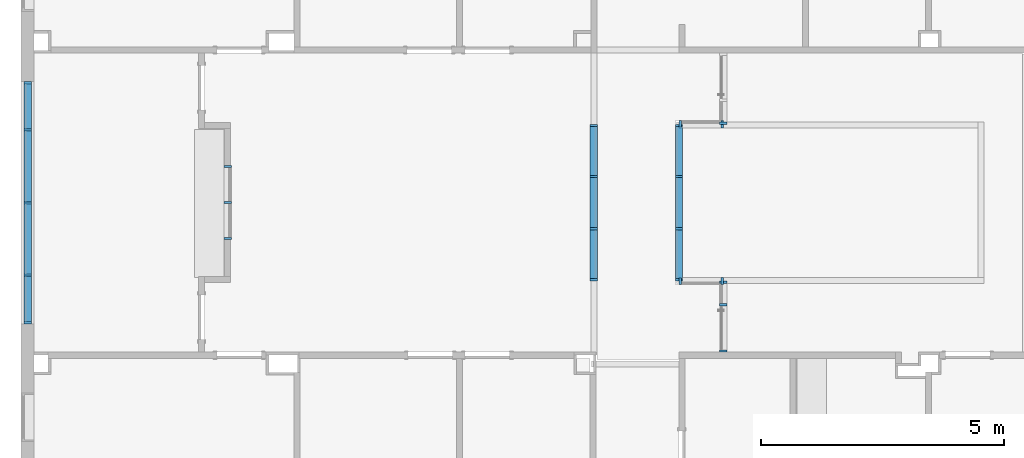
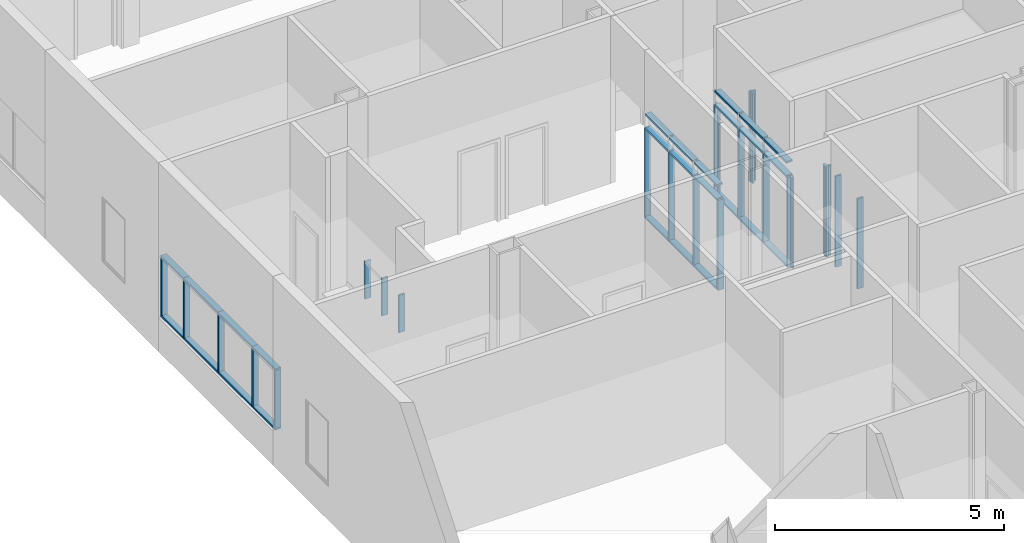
# One storey, part 6 of 87: 50 members, 8 elements without a shape of their own.
"""IFC2X3 building model written with IfcOpenShell, lengths in metres."""

from ifc_helpers import new_model, entity, si_unit, converted_unit, frame, origin, origin_2d_with_axis, place, context, project, spatial, rectangle, extrude, source, transform, mapped, material, type_object, type_shapes, element, aggregate, save


model = new_model("IFC2X3")

# Units and contexts
model_context = context("Model", 3, precision=1e-09, world=origin())
plan_context = context("Plan", 3, precision=1e-09, world=origin())
ifc_project = project(units=[si_unit("LENGTHUNIT", "METRE"), si_unit("AREAUNIT", "SQUARE_METRE"), si_unit("VOLUMEUNIT", "CUBIC_METRE"), converted_unit("PLANEANGLEUNIT", "DEGREE", entity("IfcRatioMeasure", 0.01745329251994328), si_unit("PLANEANGLEUNIT", "RADIAN"), dimensions=[0, 0, 0, 0, 0, 0, 0]), si_unit("TIMEUNIT", "SECOND")], contexts=[model_context, plan_context])

# Site, building, storey
site_placement = place(None, origin())
site = spatial("IfcSite", under=ifc_project, at=site_placement, Name="Default", CompositionType="ELEMENT")
building_placement = place(site_placement, origin())
building = spatial("IfcBuilding", under=site, at=building_placement, CompositionType="ELEMENT")
storey_placement = place(building_placement, origin())
storey = spatial("IfcBuildingStorey", under=building, at=storey_placement, Name="First Floor", CompositionType="ELEMENT", Elevation=-3.531500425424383e-13)

# Curtain wall, members
curtain_wall_1_placement = place(storey_placement, origin())
curtain_wall_1 = element("IfcCurtainWall", 1, at=curtain_wall_1_placement, inside=storey, Name="Curtain Wall:Storefront", ObjectType="Curtain Wall:Storefront")
ifc_material = material(Name="Metal - Aluminium")
member_type_1 = type_object("IfcMemberType", Name="50 x 150mm", PredefinedType="MULLION")
shared_shape_1 = source(origin(), model_context, "Body", "SweptSolid", [
    extrude(rectangle(XDim=0.05, YDim=0.15, at=origin_2d_with_axis()), frame((-0.025, 0.0, -1.0), z_axis=(0.0, 0.0, 1.0), x_axis=(-1.0, 0.0, 0.0)), (0.0, 0.0, 1.0), 1.0),
])
type_shapes(member_type_1, [shared_shape_1])
member_1_placement = place(storey_placement, frame((-52.14650000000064, 34.19495592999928, 2.54), z_axis=(0.0, 1.0, 0.0), x_axis=(0.0, 0.0, 1.0)))
member_1 = element("IfcMember", 2, at=member_1_placement, type_object=member_type_1, material=ifc_material, Name="Rectangular Mullion:50 x 150mm:50 x 150mm", ObjectType="50 x 150mm", context=model_context, shape_type="MappedRepresentation", body=[
    mapped(shared_shape_1, transform((0.0, 0.0, 0.0), scale=1.0)),
])
member_type_2 = type_object("IfcMemberType", Name="50 x 150mm", PredefinedType="MULLION")
shared_shape_2 = source(origin(), model_context, "Body", "SweptSolid", [
    extrude(rectangle(XDim=0.05, YDim=0.15, at=origin_2d_with_axis()), frame((-0.025, 0.0, -1.0), z_axis=(0.0, 0.0, 1.0), x_axis=(-1.0, 0.0, 0.0)), (0.0, 0.0, 1.0), 1.0),
])
type_shapes(member_type_2, [shared_shape_2])
member_2_placement = place(storey_placement, frame((-52.14650000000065, 30.19495592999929, 2.54), z_axis=(0.0, 1.0, 0.0), x_axis=(0.0, 0.0, 1.0)))
member_2 = element("IfcMember", 3, at=member_2_placement, type_object=member_type_2, material=ifc_material, Name="Rectangular Mullion:50 x 150mm:50 x 150mm", ObjectType="50 x 150mm", context=model_context, shape_type="MappedRepresentation", body=[
    mapped(shared_shape_2, transform((0.0, 0.0, 0.0), scale=1.0)),
])
member_type_3 = type_object("IfcMemberType", Name="50 x 150mm", PredefinedType="MULLION")
shared_shape_3 = source(origin(), model_context, "Body", "SweptSolid", [
    extrude(rectangle(XDim=0.05, YDim=0.15, at=origin_2d_with_axis()), frame((-0.025, 0.0, -1.0), z_axis=(0.0, 0.0, 1.0), x_axis=(-1.0, 0.0, 0.0)), (0.0, 0.0, 1.0), 1.0),
])
type_shapes(member_type_3, [shared_shape_3])
member_3_placement = place(storey_placement, frame((-52.14650000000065, 29.19495592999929, 0.905), z_axis=(0.0, -1.0, 0.0), x_axis=(0.0, 0.0, -1.0)))
member_3 = element("IfcMember", 4, at=member_3_placement, type_object=member_type_3, material=ifc_material, Name="Rectangular Mullion:50 x 150mm:50 x 150mm", ObjectType="50 x 150mm", context=model_context, shape_type="MappedRepresentation", body=[
    mapped(shared_shape_3, transform((0.0, 0.0, 0.0), scale=1.0)),
])
member_type_4 = type_object("IfcMemberType", Name="50 x 150mm", PredefinedType="MULLION")
shared_shape_4 = source(origin(), model_context, "Body", "SweptSolid", [
    extrude(rectangle(XDim=0.05, YDim=0.15, at=origin_2d_with_axis()), frame((-0.025, 0.0, -1.535), z_axis=(0.0, 0.0, 1.0), x_axis=(-1.0, 0.0, 0.0)), (0.0, 0.0, 1.0), 1.535),
])
type_shapes(member_type_4, [shared_shape_4])
member_4_placement = place(storey_placement, frame((-52.14650000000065, 29.19495592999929, 2.49), z_axis=(0.0, 0.0, 1.0), x_axis=(0.0, -1.0, 0.0)))
member_4 = element("IfcMember", 5, at=member_4_placement, type_object=member_type_4, material=ifc_material, Name="Rectangular Mullion:50 x 150mm:50 x 150mm", ObjectType="50 x 150mm", context=model_context, shape_type="MappedRepresentation", body=[
    mapped(shared_shape_4, transform((0.0, 0.0, 0.0), scale=1.0)),
])
member_type_5 = type_object("IfcMemberType", Name="50 x 150mm", PredefinedType="MULLION")
shared_shape_5 = source(origin(), model_context, "Body", "SweptSolid", [
    extrude(rectangle(XDim=0.05, YDim=0.15, at=origin_2d_with_axis()), frame((0.0, 0.0, -1.535), z_axis=(0.0, 0.0, 1.0), x_axis=(-1.0, 0.0, 0.0)), (0.0, 0.0, 1.0), 1.535),
])
type_shapes(member_type_5, [shared_shape_5])
member_5_placement = place(storey_placement, frame((-52.14650000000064, 33.19495592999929, 0.9550000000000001), z_axis=(0.0, 0.0, -1.0), x_axis=(0.0, 1.0, 0.0)))
member_5 = element("IfcMember", 6, at=member_5_placement, type_object=member_type_5, material=ifc_material, Name="Rectangular Mullion:50 x 150mm:50 x 150mm", ObjectType="50 x 150mm", context=model_context, shape_type="MappedRepresentation", body=[
    mapped(shared_shape_5, transform((0.0, 0.0, 0.0), scale=1.0)),
])
member_6_placement = place(storey_placement, frame((-52.14650000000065, 31.69495592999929, 0.9550000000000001), z_axis=(0.0, 0.0, -1.0), x_axis=(0.0, 1.0, 0.0)))
member_6 = element("IfcMember", 7, at=member_6_placement, type_object=member_type_5, material=ifc_material, Name="Rectangular Mullion:50 x 150mm:50 x 150mm", ObjectType="50 x 150mm", context=model_context, shape_type="MappedRepresentation", body=[
    mapped(shared_shape_5, transform((0.0, 0.0, 0.0), scale=1.0)),
])
member_7_placement = place(storey_placement, frame((-52.14650000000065, 30.19495592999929, 0.9550000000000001), z_axis=(0.0, 0.0, -1.0), x_axis=(0.0, 1.0, 0.0)))
member_7 = element("IfcMember", 8, at=member_7_placement, type_object=member_type_5, material=ifc_material, Name="Rectangular Mullion:50 x 150mm:50 x 150mm", ObjectType="50 x 150mm", context=model_context, shape_type="MappedRepresentation", body=[
    mapped(shared_shape_5, transform((0.0, 0.0, 0.0), scale=1.0)),
])
member_type_6 = type_object("IfcMemberType", Name="50 x 150mm", PredefinedType="MULLION")
shared_shape_6 = source(origin(), model_context, "Body", "SweptSolid", [
    extrude(rectangle(XDim=0.05, YDim=0.15, at=origin_2d_with_axis()), frame((-0.025, 0.0, -1.499999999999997), z_axis=(0.0, 0.0, 1.0), x_axis=(-1.0, 0.0, 0.0)), (0.0, 0.0, 1.0), 1.499999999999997),
])
type_shapes(member_type_6, [shared_shape_6])
member_8_placement = place(storey_placement, frame((-52.14650000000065, 31.69495592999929, 2.54), z_axis=(0.0, 1.0, 0.0), x_axis=(0.0, 0.0, 1.0)))
member_8 = element("IfcMember", 9, at=member_8_placement, type_object=member_type_6, material=ifc_material, Name="Rectangular Mullion:50 x 150mm:50 x 150mm", ObjectType="50 x 150mm", context=model_context, shape_type="MappedRepresentation", body=[
    mapped(shared_shape_6, transform((0.0, 0.0, 0.0), scale=1.0)),
])
member_9_placement = place(storey_placement, frame((-52.14650000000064, 33.19495592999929, 2.54), z_axis=(0.0, 1.0, 0.0), x_axis=(0.0, 0.0, 1.0)))
member_9 = element("IfcMember", 10, at=member_9_placement, type_object=member_type_6, material=ifc_material, Name="Rectangular Mullion:50 x 150mm:50 x 150mm", ObjectType="50 x 150mm", context=model_context, shape_type="MappedRepresentation", body=[
    mapped(shared_shape_6, transform((0.0, 0.0, 0.0), scale=1.0)),
])
member_type_7 = type_object("IfcMemberType", Name="50 x 150mm", PredefinedType="MULLION")
shared_shape_7 = source(origin(), model_context, "Body", "SweptSolid", [
    extrude(rectangle(XDim=0.05, YDim=0.15, at=origin_2d_with_axis()), frame((-0.025, 0.0, -1.499999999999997), z_axis=(0.0, 0.0, 1.0), x_axis=(-1.0, 0.0, 0.0)), (0.0, 0.0, 1.0), 1.499999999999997),
])
type_shapes(member_type_7, [shared_shape_7])
member_10_placement = place(storey_placement, frame((-52.14650000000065, 30.19495592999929, 0.905), z_axis=(0.0, -1.0, 0.0), x_axis=(0.0, 0.0, -1.0)))
member_10 = element("IfcMember", 11, at=member_10_placement, type_object=member_type_7, material=ifc_material, Name="Rectangular Mullion:50 x 150mm:50 x 150mm", ObjectType="50 x 150mm", context=model_context, shape_type="MappedRepresentation", body=[
    mapped(shared_shape_7, transform((0.0, 0.0, 0.0), scale=1.0)),
])
member_11_placement = place(storey_placement, frame((-52.14650000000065, 31.69495592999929, 0.905), z_axis=(0.0, -1.0, 0.0), x_axis=(0.0, 0.0, -1.0)))
member_11 = element("IfcMember", 12, at=member_11_placement, type_object=member_type_7, material=ifc_material, Name="Rectangular Mullion:50 x 150mm:50 x 150mm", ObjectType="50 x 150mm", context=model_context, shape_type="MappedRepresentation", body=[
    mapped(shared_shape_7, transform((0.0, 0.0, 0.0), scale=1.0)),
])
member_type_8 = type_object("IfcMemberType", Name="50 x 150mm", PredefinedType="MULLION")
shared_shape_8 = source(origin(), model_context, "Body", "SweptSolid", [
    extrude(rectangle(XDim=0.05, YDim=0.15, at=origin_2d_with_axis()), frame((-0.025, 0.0, -1.0), z_axis=(0.0, 0.0, 1.0), x_axis=(-1.0, 0.0, 0.0)), (0.0, 0.0, 1.0), 0.9999999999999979),
])
type_shapes(member_type_8, [shared_shape_8])
member_12_placement = place(storey_placement, frame((-52.14650000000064, 33.19495592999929, 0.905), z_axis=(0.0, -1.0, 0.0), x_axis=(0.0, 0.0, -1.0)))
member_12 = element("IfcMember", 13, at=member_12_placement, type_object=member_type_8, material=ifc_material, Name="Rectangular Mullion:50 x 150mm:50 x 150mm", ObjectType="50 x 150mm", context=model_context, shape_type="MappedRepresentation", body=[
    mapped(shared_shape_8, transform((0.0, 0.0, 0.0), scale=1.0)),
])
member_type_9 = type_object("IfcMemberType", Name="50 x 150mm", PredefinedType="MULLION")
shared_shape_9 = source(origin(), model_context, "Body", "SweptSolid", [
    extrude(rectangle(XDim=0.05, YDim=0.15, at=origin_2d_with_axis()), frame((-0.025, 0.0, -1.535), z_axis=(0.0, 0.0, 1.0), x_axis=(-1.0, 0.0, 0.0)), (0.0, 0.0, 1.0), 1.535),
])
type_shapes(member_type_9, [shared_shape_9])
member_13_placement = place(storey_placement, frame((-52.14650000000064, 34.19495592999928, 0.9550000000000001), z_axis=(0.0, 0.0, -1.0), x_axis=(0.0, 1.0, 0.0)))
member_13 = element("IfcMember", 14, at=member_13_placement, type_object=member_type_9, material=ifc_material, Name="Rectangular Mullion:50 x 150mm:50 x 150mm", ObjectType="50 x 150mm", context=model_context, shape_type="MappedRepresentation", body=[
    mapped(shared_shape_9, transform((0.0, 0.0, 0.0), scale=1.0)),
])
aggregate(curtain_wall_1, [member_1, member_2, member_8, member_9, member_3, member_10, member_11, member_12, member_13, member_4, member_5, member_6, member_7])

# Curtain wall, member
curtain_wall_2_placement = place(storey_placement, origin())
curtain_wall_2 = element("IfcCurtainWall", 15, at=curtain_wall_2_placement, inside=storey, Name="Curtain Wall:Storefront - Interior", ObjectType="Curtain Wall:Storefront - Interior")
member_type_10 = type_object("IfcMemberType", Name="50 x 150mm", PredefinedType="MULLION")
shared_shape_10 = source(origin(), model_context, "Body", "SweptSolid", [
    extrude(rectangle(XDim=0.05, YDim=0.15, at=origin_2d_with_axis()), frame((-0.025, 0.0, -2.4), z_axis=(0.0, 0.0, 1.0), x_axis=(-1.0, 0.0, 0.0)), (0.0, 0.0, 1.0), 2.4),
])
type_shapes(member_type_10, [shared_shape_10])
member_14_placement = place(storey_placement, frame((-37.80500000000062, 30.07999999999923, 0.0), z_axis=(0.0, 0.0, -1.0), x_axis=(0.0, 1.0, 0.0)))
member_14 = element("IfcMember", 16, at=member_14_placement, type_object=member_type_10, material=ifc_material, Name="Rectangular Mullion:50 x 150mm:50 x 150mm", ObjectType="50 x 150mm", context=model_context, shape_type="MappedRepresentation", body=[
    mapped(shared_shape_10, transform((0.0, 0.0, 0.0), scale=1.0)),
])

curtain_wall_3_placement = place(storey_placement, origin())
curtain_wall_3 = element("IfcCurtainWall", 17, at=curtain_wall_3_placement, inside=storey, Name="Curtain Wall:Storefront - Interior", ObjectType="Curtain Wall:Storefront - Interior")
member_15_placement = place(storey_placement, frame((-38.72000000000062, 30.07999999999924, 0.0), z_axis=(0.0, 0.0, -1.0), x_axis=(-1.0, 0.0, 0.0)))
member_15 = element("IfcMember", 18, at=member_15_placement, type_object=member_type_10, material=ifc_material, Name="Rectangular Mullion:50 x 150mm:50 x 150mm", ObjectType="50 x 150mm", context=model_context, shape_type="MappedRepresentation", body=[
    mapped(shared_shape_10, transform((0.0, 0.0, 0.0), scale=1.0)),
])

curtain_wall_4_placement = place(storey_placement, origin())
curtain_wall_4 = element("IfcCurtainWall", 19, at=curtain_wall_4_placement, inside=storey, Name="Curtain Wall:Storefront - Interior", ObjectType="Curtain Wall:Storefront - Interior")
member_16_placement = place(storey_placement, frame((-38.72000000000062, 33.30999999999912, 0.0), z_axis=(0.0, 0.0, -1.0), x_axis=(0.0, 1.0, 0.0)))
member_16 = element("IfcMember", 20, at=member_16_placement, type_object=member_type_10, material=ifc_material, Name="Rectangular Mullion:50 x 150mm:50 x 150mm", ObjectType="50 x 150mm", context=model_context, shape_type="MappedRepresentation", body=[
    mapped(shared_shape_10, transform((0.0, 0.0, 0.0), scale=1.0)),
])

curtain_wall_5_placement = place(storey_placement, origin())
curtain_wall_5 = element("IfcCurtainWall", 21, at=curtain_wall_5_placement, inside=storey, Name="Curtain Wall:Storefront - Interior", ObjectType="Curtain Wall:Storefront - Interior")
member_17_placement = place(storey_placement, frame((-37.80500000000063, 33.30999999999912, 0.0), z_axis=(0.0, 0.0, -1.0), x_axis=(1.0, 0.0, 0.0)))
member_17 = element("IfcMember", 22, at=member_17_placement, type_object=member_type_10, material=ifc_material, Name="Rectangular Mullion:50 x 150mm:50 x 150mm", ObjectType="50 x 150mm", context=model_context, shape_type="MappedRepresentation", body=[
    mapped(shared_shape_10, transform((0.0, 0.0, 0.0), scale=1.0)),
])

curtain_wall_6_placement = place(storey_placement, origin())
curtain_wall_6 = element("IfcCurtainWall", 23, at=curtain_wall_6_placement, inside=storey, Name="Curtain Wall:Storefront - Interior", ObjectType="Curtain Wall:Storefront - Interior")
member_18_placement = place(storey_placement, frame((-40.47500000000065, 30.07999999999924, 0.0), z_axis=(0.0, 0.0, -1.0), x_axis=(0.0, -1.0, 0.0)))
member_18 = element("IfcMember", 24, at=member_18_placement, type_object=member_type_10, material=ifc_material, Name="Rectangular Mullion:50 x 150mm:50 x 150mm", ObjectType="50 x 150mm", context=model_context, shape_type="MappedRepresentation", body=[
    mapped(shared_shape_10, transform((0.0, 0.0, 0.0), scale=1.0)),
])

# Member
member_type_11 = type_object("IfcMemberType", Name="50 x 150mm", PredefinedType="MULLION")
shared_shape_11 = source(origin(), model_context, "Body", "SweptSolid", [
    extrude(rectangle(XDim=0.05, YDim=0.15, at=origin_2d_with_axis()), frame((-0.025, 0.0, -2.4), z_axis=(0.0, 0.0, 1.0), x_axis=(-1.0, 0.0, 0.0)), (0.0, 0.0, 1.0), 2.4),
])
type_shapes(member_type_11, [shared_shape_11])
member_19_placement = place(storey_placement, frame((-37.80500000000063, 28.60999999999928, 2.399999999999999), z_axis=(0.0, 0.0, 1.0), x_axis=(0.0, -1.0, 0.0)))
member_19 = element("IfcMember", 25, at=member_19_placement, type_object=member_type_11, material=ifc_material, Name="Rectangular Mullion:50 x 150mm:50 x 150mm", ObjectType="50 x 150mm", context=model_context, shape_type="MappedRepresentation", body=[
    mapped(shared_shape_11, transform((0.0, 0.0, 0.0), scale=1.0)),
])

member_20_placement = place(storey_placement, frame((-37.80500000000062, 30.07999999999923, 2.399999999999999)))
member_20 = element("IfcMember", 26, at=member_20_placement, type_object=member_type_11, material=ifc_material, Name="Rectangular Mullion:50 x 150mm:50 x 150mm", ObjectType="50 x 150mm", context=model_context, shape_type="MappedRepresentation", body=[
    mapped(shared_shape_11, transform((0.0, 0.0, 0.0), scale=1.0)),
])

aggregate(curtain_wall_3, [member_15, member_20])

member_21_placement = place(storey_placement, frame((-38.72000000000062, 30.07999999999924, 2.399999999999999), z_axis=(0.0, 0.0, 1.0), x_axis=(0.0, -1.0, 0.0)))
member_21 = element("IfcMember", 27, at=member_21_placement, type_object=member_type_11, material=ifc_material, Name="Rectangular Mullion:50 x 150mm:50 x 150mm", ObjectType="50 x 150mm", context=model_context, shape_type="MappedRepresentation", body=[
    mapped(shared_shape_11, transform((0.0, 0.0, 0.0), scale=1.0)),
])

member_22_placement = place(storey_placement, frame((-38.72000000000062, 33.30999999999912, 2.399999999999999), z_axis=(0.0, 0.0, 1.0), x_axis=(-1.0, 0.0, 0.0)))
member_22 = element("IfcMember", 28, at=member_22_placement, type_object=member_type_11, material=ifc_material, Name="Rectangular Mullion:50 x 150mm:50 x 150mm", ObjectType="50 x 150mm", context=model_context, shape_type="MappedRepresentation", body=[
    mapped(shared_shape_11, transform((0.0, 0.0, 0.0), scale=1.0)),
])

aggregate(curtain_wall_5, [member_17, member_22])

# Curtain wall, member
curtain_wall_7_placement = place(storey_placement, origin())
curtain_wall_7 = element("IfcCurtainWall", 29, at=curtain_wall_7_placement, inside=storey, Name="Curtain Wall:Storefront - Interior", ObjectType="Curtain Wall:Storefront - Interior")
member_23_placement = place(storey_placement, frame((-37.80500000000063, 33.30999999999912, 2.399999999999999), z_axis=(0.0, 0.0, 1.0), x_axis=(0.0, -1.0, 0.0)))
member_23 = element("IfcMember", 30, at=member_23_placement, type_object=member_type_11, material=ifc_material, Name="Rectangular Mullion:50 x 150mm:50 x 150mm", ObjectType="50 x 150mm", context=model_context, shape_type="MappedRepresentation", body=[
    mapped(shared_shape_11, transform((0.0, 0.0, 0.0), scale=1.0)),
])
aggregate(curtain_wall_7, [member_23])

# Member
member_24_placement = place(storey_placement, frame((-40.47500000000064, 33.30999999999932, 2.4), z_axis=(0.0, 0.0, 1.0), x_axis=(0.0, 1.0, 0.0)))
member_24 = element("IfcMember", 31, at=member_24_placement, type_object=member_type_11, material=ifc_material, Name="Rectangular Mullion:50 x 150mm:50 x 150mm", ObjectType="50 x 150mm", context=model_context, shape_type="MappedRepresentation", body=[
    mapped(shared_shape_11, transform((0.0, 0.0, 0.0), scale=1.0)),
])

member_type_12 = type_object("IfcMemberType", Name="50 x 150mm", PredefinedType="MULLION")
shared_shape_12 = source(origin(), model_context, "Body", "SweptSolid", [
    extrude(rectangle(XDim=0.05, YDim=0.15, at=origin_2d_with_axis()), frame((0.0, 0.0, -2.4), z_axis=(0.0, 0.0, 1.0), x_axis=(-1.0, 0.0, 0.0)), (0.0, 0.0, 1.0), 2.4),
])
type_shapes(member_type_12, [shared_shape_12])
member_25_placement = place(storey_placement, frame((-38.72000000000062, 31.15666666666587, 0.0), z_axis=(0.0, 0.0, -1.0), x_axis=(0.0, 1.0, 0.0)))
member_25 = element("IfcMember", 32, at=member_25_placement, type_object=member_type_12, material=ifc_material, Name="Rectangular Mullion:50 x 150mm:50 x 150mm", ObjectType="50 x 150mm", context=model_context, shape_type="MappedRepresentation", body=[
    mapped(shared_shape_12, transform((0.0, 0.0, 0.0), scale=1.0)),
])

member_26_placement = place(storey_placement, frame((-38.72000000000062, 32.2333333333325, 0.0), z_axis=(0.0, 0.0, -1.0), x_axis=(0.0, 1.0, 0.0)))
member_26 = element("IfcMember", 33, at=member_26_placement, type_object=member_type_12, material=ifc_material, Name="Rectangular Mullion:50 x 150mm:50 x 150mm", ObjectType="50 x 150mm", context=model_context, shape_type="MappedRepresentation", body=[
    mapped(shared_shape_12, transform((0.0, 0.0, 0.0), scale=1.0)),
])

member_27_placement = place(storey_placement, frame((-40.47500000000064, 32.23333333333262, 0.0), z_axis=(0.0, 0.0, -1.0), x_axis=(0.0, -1.0, 0.0)))
member_27 = element("IfcMember", 34, at=member_27_placement, type_object=member_type_12, material=ifc_material, Name="Rectangular Mullion:50 x 150mm:50 x 150mm", ObjectType="50 x 150mm", context=model_context, shape_type="MappedRepresentation", body=[
    mapped(shared_shape_12, transform((0.0, 0.0, 0.0), scale=1.0)),
])

member_28_placement = place(storey_placement, frame((-40.47500000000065, 31.15666666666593, 0.0), z_axis=(0.0, 0.0, -1.0), x_axis=(0.0, -1.0, 0.0)))
member_28 = element("IfcMember", 35, at=member_28_placement, type_object=member_type_12, material=ifc_material, Name="Rectangular Mullion:50 x 150mm:50 x 150mm", ObjectType="50 x 150mm", context=model_context, shape_type="MappedRepresentation", body=[
    mapped(shared_shape_12, transform((0.0, 0.0, 0.0), scale=1.0)),
])

member_type_13 = type_object("IfcMemberType", Name="50 x 150mm", PredefinedType="MULLION")
shared_shape_13 = source(origin(), model_context, "Body", "SweptSolid", [
    extrude(rectangle(XDim=0.05, YDim=0.15, at=origin_2d_with_axis()), frame((0.0, 0.0, -2.424999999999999), z_axis=(0.0, 0.0, 1.0), x_axis=(-1.0, 0.0, 0.0)), (0.0, 0.0, 1.0), 2.424999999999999),
])
type_shapes(member_type_13, [shared_shape_13])
member_29_placement = place(storey_placement, frame((-37.80500000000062, 29.58600059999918, 0.0), z_axis=(0.0, 0.0, -1.0), x_axis=(0.0, 1.0, 0.0)))
member_29 = element("IfcMember", 36, at=member_29_placement, type_object=member_type_13, material=ifc_material, Name="Rectangular Mullion:50 x 150mm:50 x 150mm", ObjectType="50 x 150mm", context=model_context, shape_type="MappedRepresentation", body=[
    mapped(shared_shape_13, transform((0.0, 0.0, 0.0), scale=1.0)),
])

aggregate(curtain_wall_2, [member_14, member_19, member_29])

member_type_14 = type_object("IfcMemberType", Name="50 x 150mm", PredefinedType="MULLION")
shared_shape_14 = source(origin(), model_context, "Body", "SweptSolid", [
    extrude(rectangle(XDim=0.05, YDim=0.15, at=origin_2d_with_axis()), frame((-0.025, 0.0, -1.001666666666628), z_axis=(0.0, 0.0, 1.0), x_axis=(-1.0, 0.0, 0.0)), (0.0, 0.0, 1.0), 1.00166666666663),
])
type_shapes(member_type_14, [shared_shape_14])
member_30_placement = place(storey_placement, frame((-38.72000000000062, 33.25999999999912, 2.8), z_axis=(0.0, 1.0, 0.0), x_axis=(0.0, 0.0, 1.0)))
member_30 = element("IfcMember", 37, at=member_30_placement, type_object=member_type_14, material=ifc_material, Name="Rectangular Mullion:50 x 150mm:50 x 150mm", ObjectType="50 x 150mm", context=model_context, shape_type="MappedRepresentation", body=[
    mapped(shared_shape_14, transform((0.0, 0.0, 0.0), scale=1.0)),
])

member_31_placement = place(storey_placement, frame((-38.72000000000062, 31.13166666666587, 2.8), z_axis=(0.0, 1.0, 0.0), x_axis=(0.0, 0.0, 1.0)))
member_31 = element("IfcMember", 38, at=member_31_placement, type_object=member_type_14, material=ifc_material, Name="Rectangular Mullion:50 x 150mm:50 x 150mm", ObjectType="50 x 150mm", context=model_context, shape_type="MappedRepresentation", body=[
    mapped(shared_shape_14, transform((0.0, 0.0, 0.0), scale=1.0)),
])

member_32_placement = place(storey_placement, frame((-40.47500000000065, 30.12999999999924, 2.8), z_axis=(0.0, -1.0, 0.0), x_axis=(0.0, 0.0, 1.0)))
member_32 = element("IfcMember", 39, at=member_32_placement, type_object=member_type_14, material=ifc_material, Name="Rectangular Mullion:50 x 150mm:50 x 150mm", ObjectType="50 x 150mm", context=model_context, shape_type="MappedRepresentation", body=[
    mapped(shared_shape_14, transform((0.0, 0.0, 0.0), scale=1.0)),
])

member_33_placement = place(storey_placement, frame((-40.47500000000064, 32.25833333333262, 2.8), z_axis=(0.0, -1.0, 0.0), x_axis=(0.0, 0.0, 1.0)))
member_33 = element("IfcMember", 40, at=member_33_placement, type_object=member_type_14, material=ifc_material, Name="Rectangular Mullion:50 x 150mm:50 x 150mm", ObjectType="50 x 150mm", context=model_context, shape_type="MappedRepresentation", body=[
    mapped(shared_shape_14, transform((0.0, 0.0, 0.0), scale=1.0)),
])

member_type_15 = type_object("IfcMemberType", Name="50 x 150mm", PredefinedType="MULLION")
shared_shape_15 = source(origin(), model_context, "Body", "SweptSolid", [
    extrude(rectangle(XDim=0.05, YDim=0.15, at=origin_2d_with_axis()), frame((-0.025, 0.0, -1.026666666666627), z_axis=(0.0, 0.0, 1.0), x_axis=(-1.0, 0.0, 0.0)), (0.0, 0.0, 1.0), 1.026666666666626),
])
type_shapes(member_type_15, [shared_shape_15])
member_34_placement = place(storey_placement, frame((-38.72000000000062, 32.2083333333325, 2.8), z_axis=(0.0, 1.0, 0.0), x_axis=(0.0, 0.0, 1.0)))
member_34 = element("IfcMember", 41, at=member_34_placement, type_object=member_type_15, material=ifc_material, Name="Rectangular Mullion:50 x 150mm:50 x 150mm", ObjectType="50 x 150mm", context=model_context, shape_type="MappedRepresentation", body=[
    mapped(shared_shape_15, transform((0.0, 0.0, 0.0), scale=1.0)),
])

member_35_placement = place(storey_placement, frame((-40.47500000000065, 31.18166666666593, 2.8), z_axis=(0.0, -1.0, 0.0), x_axis=(0.0, 0.0, 1.0)))
member_35 = element("IfcMember", 42, at=member_35_placement, type_object=member_type_15, material=ifc_material, Name="Rectangular Mullion:50 x 150mm:50 x 150mm", ObjectType="50 x 150mm", context=model_context, shape_type="MappedRepresentation", body=[
    mapped(shared_shape_15, transform((0.0, 0.0, 0.0), scale=1.0)),
])

member_type_16 = type_object("IfcMemberType", Name="50 x 150mm", PredefinedType="MULLION")
shared_shape_16 = source(origin(), model_context, "Body", "SweptSolid", [
    extrude(rectangle(XDim=0.05, YDim=0.15, at=origin_2d_with_axis()), frame((-0.025, 0.0, -1.001666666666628), z_axis=(0.0, 0.0, 1.0), x_axis=(-1.0, 0.0, 0.0)), (0.0, 0.0, 1.0), 1.00166666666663),
])
type_shapes(member_type_16, [shared_shape_16])
member_36_placement = place(storey_placement, frame((-38.72000000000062, 30.12999999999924, 0.0), z_axis=(0.0, -1.0, 0.0), x_axis=(0.0, 0.0, -1.0)))
member_36 = element("IfcMember", 43, at=member_36_placement, type_object=member_type_16, material=ifc_material, Name="Rectangular Mullion:50 x 150mm:50 x 150mm", ObjectType="50 x 150mm", context=model_context, shape_type="MappedRepresentation", body=[
    mapped(shared_shape_16, transform((0.0, 0.0, 0.0), scale=1.0)),
])

member_37_placement = place(storey_placement, frame((-38.72000000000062, 32.25833333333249, 0.0), z_axis=(0.0, -1.0, 0.0), x_axis=(0.0, 0.0, -1.0)))
member_37 = element("IfcMember", 44, at=member_37_placement, type_object=member_type_16, material=ifc_material, Name="Rectangular Mullion:50 x 150mm:50 x 150mm", ObjectType="50 x 150mm", context=model_context, shape_type="MappedRepresentation", body=[
    mapped(shared_shape_16, transform((0.0, 0.0, 0.0), scale=1.0)),
])

member_38_placement = place(storey_placement, frame((-40.47500000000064, 33.25999999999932, 0.0), z_axis=(0.0, 1.0, 0.0), x_axis=(0.0, 0.0, -1.0)))
member_38 = element("IfcMember", 45, at=member_38_placement, type_object=member_type_16, material=ifc_material, Name="Rectangular Mullion:50 x 150mm:50 x 150mm", ObjectType="50 x 150mm", context=model_context, shape_type="MappedRepresentation", body=[
    mapped(shared_shape_16, transform((0.0, 0.0, 0.0), scale=1.0)),
])

member_39_placement = place(storey_placement, frame((-40.47500000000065, 31.13166666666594, 0.0), z_axis=(0.0, 1.0, 0.0), x_axis=(0.0, 0.0, -1.0)))
member_39 = element("IfcMember", 46, at=member_39_placement, type_object=member_type_16, material=ifc_material, Name="Rectangular Mullion:50 x 150mm:50 x 150mm", ObjectType="50 x 150mm", context=model_context, shape_type="MappedRepresentation", body=[
    mapped(shared_shape_16, transform((0.0, 0.0, 0.0), scale=1.0)),
])

member_type_17 = type_object("IfcMemberType", Name="50 x 150mm", PredefinedType="MULLION")
shared_shape_17 = source(origin(), model_context, "Body", "SweptSolid", [
    extrude(rectangle(XDim=0.05, YDim=0.15, at=origin_2d_with_axis()), frame((-0.025, 0.0, -1.026666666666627), z_axis=(0.0, 0.0, 1.0), x_axis=(-1.0, 0.0, 0.0)), (0.0, 0.0, 1.0), 1.026666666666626),
])
type_shapes(member_type_17, [shared_shape_17])
member_40_placement = place(storey_placement, frame((-38.72000000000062, 31.18166666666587, 0.0), z_axis=(0.0, -1.0, 0.0), x_axis=(0.0, 0.0, -1.0)))
member_40 = element("IfcMember", 47, at=member_40_placement, type_object=member_type_17, material=ifc_material, Name="Rectangular Mullion:50 x 150mm:50 x 150mm", ObjectType="50 x 150mm", context=model_context, shape_type="MappedRepresentation", body=[
    mapped(shared_shape_17, transform((0.0, 0.0, 0.0), scale=1.0)),
])

member_41_placement = place(storey_placement, frame((-40.47500000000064, 32.20833333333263, 0.0), z_axis=(0.0, 1.0, 0.0), x_axis=(0.0, 0.0, -1.0)))
member_41 = element("IfcMember", 48, at=member_41_placement, type_object=member_type_17, material=ifc_material, Name="Rectangular Mullion:50 x 150mm:50 x 150mm", ObjectType="50 x 150mm", context=model_context, shape_type="MappedRepresentation", body=[
    mapped(shared_shape_17, transform((0.0, 0.0, 0.0), scale=1.0)),
])

member_type_18 = type_object("IfcMemberType", Name="50 x 150mm", PredefinedType="MULLION")
shared_shape_18 = source(origin(), model_context, "Body", "SweptSolid", [
    extrude(rectangle(XDim=0.05, YDim=0.15, at=origin_2d_with_axis()), frame((0.0, 0.0, -1.001666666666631), z_axis=(0.0, 0.0, 1.0), x_axis=(-1.0, 0.0, 0.0)), (0.0, 0.0, 1.0), 1.00166666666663),
])
type_shapes(member_type_18, [shared_shape_18])
member_42_placement = place(storey_placement, frame((-38.72000000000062, 31.13166666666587, 2.399999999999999), z_axis=(0.0, 1.0, 0.0), x_axis=(0.0, 0.0, 1.0)))
member_42 = element("IfcMember", 49, at=member_42_placement, type_object=member_type_18, material=ifc_material, Name="Rectangular Mullion:50 x 150mm:50 x 150mm", ObjectType="50 x 150mm", context=model_context, shape_type="MappedRepresentation", body=[
    mapped(shared_shape_18, transform((0.0, 0.0, 0.0), scale=1.0)),
])

member_43_placement = place(storey_placement, frame((-38.72000000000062, 33.25999999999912, 2.399999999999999), z_axis=(0.0, 1.0, 0.0), x_axis=(0.0, 0.0, 1.0)))
member_43 = element("IfcMember", 50, at=member_43_placement, type_object=member_type_18, material=ifc_material, Name="Rectangular Mullion:50 x 150mm:50 x 150mm", ObjectType="50 x 150mm", context=model_context, shape_type="MappedRepresentation", body=[
    mapped(shared_shape_18, transform((0.0, 0.0, 0.0), scale=1.0)),
])

member_44_placement = place(storey_placement, frame((-40.47500000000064, 32.25833333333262, 2.4), z_axis=(0.0, -1.0, 0.0), x_axis=(0.0, 0.0, 1.0)))
member_44 = element("IfcMember", 51, at=member_44_placement, type_object=member_type_18, material=ifc_material, Name="Rectangular Mullion:50 x 150mm:50 x 150mm", ObjectType="50 x 150mm", context=model_context, shape_type="MappedRepresentation", body=[
    mapped(shared_shape_18, transform((0.0, 0.0, 0.0), scale=1.0)),
])

member_45_placement = place(storey_placement, frame((-40.47500000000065, 30.12999999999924, 2.4), z_axis=(0.0, -1.0, 0.0), x_axis=(0.0, 0.0, 1.0)))
member_45 = element("IfcMember", 52, at=member_45_placement, type_object=member_type_18, material=ifc_material, Name="Rectangular Mullion:50 x 150mm:50 x 150mm", ObjectType="50 x 150mm", context=model_context, shape_type="MappedRepresentation", body=[
    mapped(shared_shape_18, transform((0.0, 0.0, 0.0), scale=1.0)),
])

member_type_19 = type_object("IfcMemberType", Name="50 x 150mm", PredefinedType="MULLION")
shared_shape_19 = source(origin(), model_context, "Body", "SweptSolid", [
    extrude(rectangle(XDim=0.05, YDim=0.15, at=origin_2d_with_axis()), frame((0.0, 0.0, -1.026666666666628), z_axis=(0.0, 0.0, 1.0), x_axis=(-1.0, 0.0, 0.0)), (0.0, 0.0, 1.0), 1.026666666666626),
])
type_shapes(member_type_19, [shared_shape_19])
member_46_placement = place(storey_placement, frame((-38.72000000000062, 32.2083333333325, 2.399999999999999), z_axis=(0.0, 1.0, 0.0), x_axis=(0.0, 0.0, 1.0)))
member_46 = element("IfcMember", 53, at=member_46_placement, type_object=member_type_19, material=ifc_material, Name="Rectangular Mullion:50 x 150mm:50 x 150mm", ObjectType="50 x 150mm", context=model_context, shape_type="MappedRepresentation", body=[
    mapped(shared_shape_19, transform((0.0, 0.0, 0.0), scale=1.0)),
])

aggregate(curtain_wall_4, [member_30, member_31, member_34, member_36, member_40, member_37, member_16, member_21, member_42, member_46, member_43, member_25, member_26])

member_47_placement = place(storey_placement, frame((-40.47500000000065, 31.18166666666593, 2.4), z_axis=(0.0, -1.0, 0.0), x_axis=(0.0, 0.0, 1.0)))
member_47 = element("IfcMember", 54, at=member_47_placement, type_object=member_type_19, material=ifc_material, Name="Rectangular Mullion:50 x 150mm:50 x 150mm", ObjectType="50 x 150mm", context=model_context, shape_type="MappedRepresentation", body=[
    mapped(shared_shape_19, transform((0.0, 0.0, 0.0), scale=1.0)),
])

aggregate(curtain_wall_6, [member_32, member_33, member_35, member_38, member_41, member_39, member_18, member_24, member_44, member_47, member_45, member_27, member_28])

# Curtain wall, members
curtain_wall_8_placement = place(storey_placement, origin())
curtain_wall_8 = element("IfcCurtainWall", 55, at=curtain_wall_8_placement, inside=storey, Name="Curtain Wall:Storefront - Interior", ObjectType="Curtain Wall:Storefront - Interior")
member_type_20 = type_object("IfcMemberType", Name="50 x 150mm", PredefinedType="MULLION")
shared_shape_20 = source(origin(), model_context, "Body", "SweptSolid", [
    extrude(rectangle(XDim=0.05, YDim=0.15, at=origin_2d_with_axis()), frame((-0.025, 0.0, -1.0), z_axis=(0.0, 0.0, 1.0), x_axis=(-1.0, 0.0, 0.0)), (0.0, 0.0, 1.0), 0.9999999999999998),
])
type_shapes(member_type_20, [shared_shape_20])
member_48_placement = place(storey_placement, frame((-48.02299986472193, 30.92999999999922, 1.0), z_axis=(0.0, 0.0, -1.0), x_axis=(0.0, -1.0, 0.0)))
member_48 = element("IfcMember", 56, at=member_48_placement, type_object=member_type_20, material=ifc_material, Name="Rectangular Mullion:50 x 150mm:50 x 150mm", ObjectType="50 x 150mm", context=model_context, shape_type="MappedRepresentation", body=[
    mapped(shared_shape_20, transform((0.0, 0.0, 0.0), scale=1.0)),
])
member_type_21 = type_object("IfcMemberType", Name="50 x 150mm", PredefinedType="MULLION")
shared_shape_21 = source(origin(), model_context, "Body", "SweptSolid", [
    extrude(rectangle(XDim=0.05, YDim=0.15, at=origin_2d_with_axis()), frame((-0.025, 0.0, -1.0), z_axis=(0.0, 0.0, 1.0), x_axis=(-1.0, 0.0, 0.0)), (0.0, 0.0, 1.0), 0.9999999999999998),
])
type_shapes(member_type_21, [shared_shape_21])
member_49_placement = place(storey_placement, frame((-48.02299986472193, 32.46399999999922, 2.0), z_axis=(0.0, 0.0, 1.0), x_axis=(0.0, 1.0, 0.0)))
member_49 = element("IfcMember", 57, at=member_49_placement, type_object=member_type_21, material=ifc_material, Name="Rectangular Mullion:50 x 150mm:50 x 150mm", ObjectType="50 x 150mm", context=model_context, shape_type="MappedRepresentation", body=[
    mapped(shared_shape_21, transform((0.0, 0.0, 0.0), scale=1.0)),
])
member_type_22 = type_object("IfcMemberType", Name="50 x 150mm", PredefinedType="MULLION")
shared_shape_22 = source(origin(), model_context, "Body", "SweptSolid", [
    extrude(rectangle(XDim=0.05, YDim=0.15, at=origin_2d_with_axis()), frame((0.0, 0.0, -1.0), z_axis=(0.0, 0.0, 1.0), x_axis=(-1.0, 0.0, 0.0)), (0.0, 0.0, 1.0), 0.9999999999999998),
])
type_shapes(member_type_22, [shared_shape_22])
member_50_placement = place(storey_placement, frame((-48.02299986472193, 31.69699999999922, 1.0), z_axis=(0.0, 0.0, -1.0), x_axis=(0.0, -1.0, 0.0)))
member_50 = element("IfcMember", 58, at=member_50_placement, type_object=member_type_22, material=ifc_material, Name="Rectangular Mullion:50 x 150mm:50 x 150mm", ObjectType="50 x 150mm", context=model_context, shape_type="MappedRepresentation", body=[
    mapped(shared_shape_22, transform((0.0, 0.0, 0.0), scale=1.0)),
])
aggregate(curtain_wall_8, [member_48, member_49, member_50])

save(model, "model.ifc")
